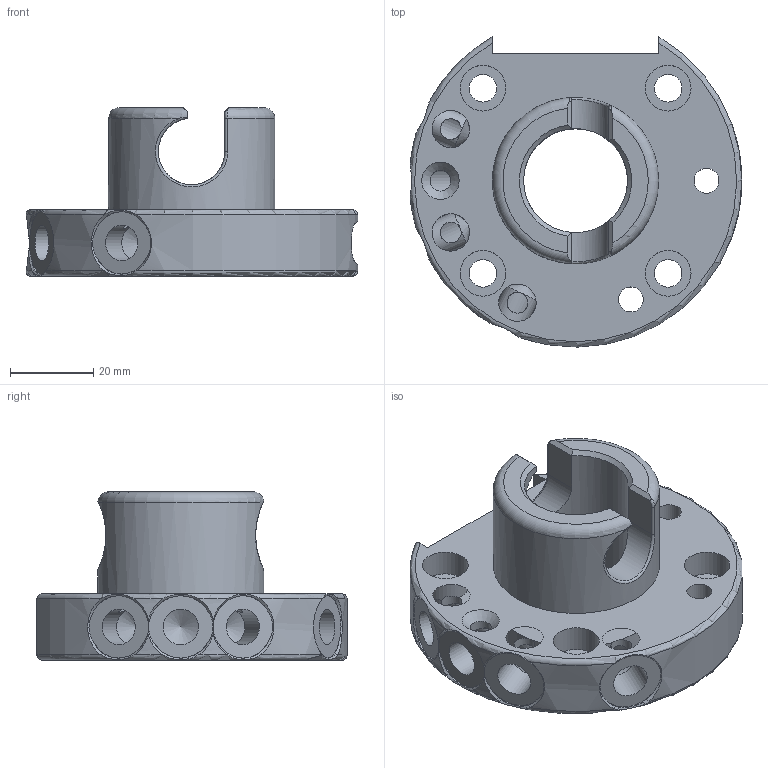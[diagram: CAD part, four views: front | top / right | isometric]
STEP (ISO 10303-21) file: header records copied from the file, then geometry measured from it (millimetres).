
FILE_DESCRIPTION(/* description */ (''),/* implementation_level */ '2;1');
FILE_NAME(/* name */ 'G-HWS080-U-A063_Rev.1.01.stp',/* time_stamp */ '2025-04-02T16:18:02+02:00',/* author */ ('ysplieth'),/* organization */ (''),/* preprocessor_version */ 'ST-DEVELOPER v20',/* originating_system */ 'Autodesk Inventor 2024',/* authorisation */ '');
FILE_SCHEMA (('AUTOMOTIVE_DESIGN { 1 0 10303 214 3 1 1 }'));
Length unit declared in the file: millimetre
Products named in the file (1): Bauteil1
Bounding box: 79.79 x 74.61 x 40.5 mm (x, y, z)
Volume: 69185.4 mm3; surface area: 21402.2 mm2
Topology: 1 solids, 1 shells, 329 faces, 875 edges, 571 vertices
Faces by surface type: bspline 154, plane 113, cylinder 42, cone 16, torus 4
Full cylindrical faces by diameter (mm): 2.459 x2, 5 x4, 6 x2, 6.647 x4, 8.566 x4, 11 x4, 25 x1, 40 x2
Entity records: 13389 total; most frequent: CARTESIAN_POINT 6082, ORIENTED_EDGE 1738, DIRECTION 946, EDGE_CURVE 869, VERTEX_POINT 570, LINE 418, VECTOR 418, EDGE_LOOP 379
